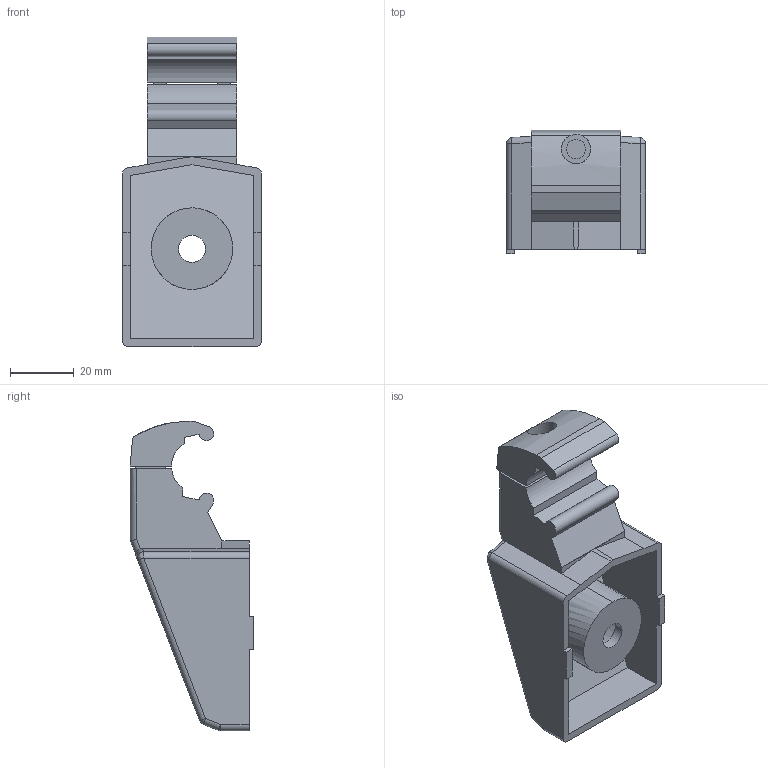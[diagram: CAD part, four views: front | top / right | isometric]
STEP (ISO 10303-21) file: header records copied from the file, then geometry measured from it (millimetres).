
FILE_DESCRIPTION (( 'STEP AP214' ), '1' );
FILE_NAME ('FGRB 16X42C.step', '2017-04-05T07:37:31', ( '' ), ( '' ), 'SwSTEP 2.0', 'SolidWorks 2015', '' );
FILE_SCHEMA (( 'AUTOMOTIVE_DESIGN' ));
Length unit declared in the file: millimetre
Products named in the file (1): FGRB 16X42C
Bounding box: 43.8 x 38.89 x 97.39 mm (x, y, z)
Volume: 41017.4 mm3; surface area: 22753.9 mm2
Topology: 1 solids, 1 shells, 91 faces, 241 edges, 150 vertices
Faces by surface type: plane 53, cylinder 30, bspline 8
Entity records: 3037 total; most frequent: CARTESIAN_POINT 809, ORIENTED_EDGE 470, DIRECTION 433, EDGE_CURVE 235, LINE 169, VECTOR 169, VERTEX_POINT 150, AXIS2_PLACEMENT_3D 132
